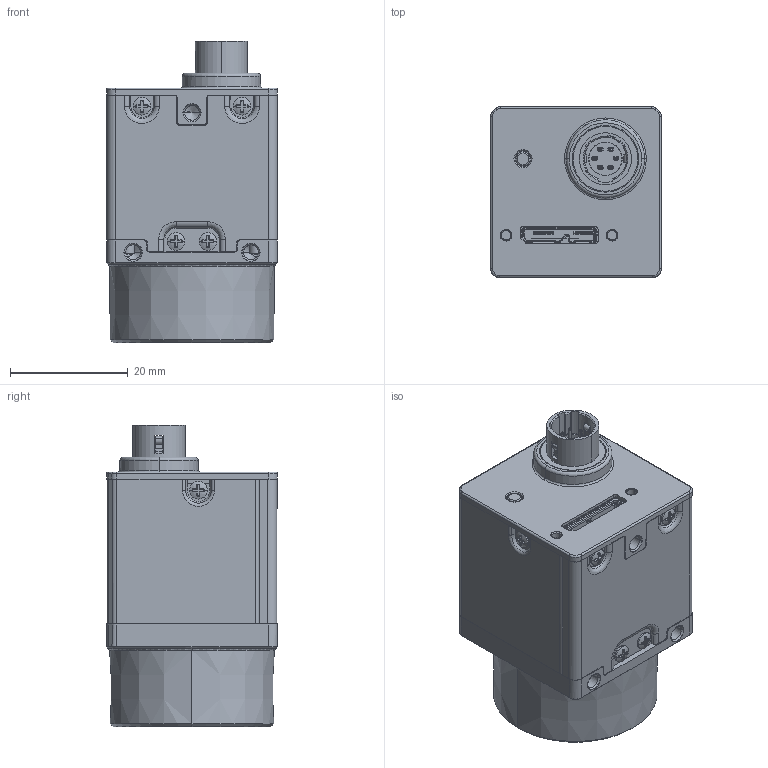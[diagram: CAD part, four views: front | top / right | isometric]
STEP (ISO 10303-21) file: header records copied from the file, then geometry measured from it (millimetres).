
FILE_DESCRIPTION((''),'2;1');
FILE_NAME('MV-CU050-60UM','2022-12-05T14:34:20',('zhangfeixiang8'),(''),'CREO PARAMETRIC BY PTC INC, 2020044','CREO PARAMETRIC BY PTC INC, 2020044','');
FILE_SCHEMA(('CONFIG_CONTROL_DESIGN','SHAPE_APPEARANCE_LAYERS_GROUPS'));
Products named in the file (1): MV-CU050-60UM
Bounding box: 29 x 29 x 51.21 mm (x, y, z)
Volume: 25244.9 mm3; surface area: 17429.3 mm2
Topology: 5 solids, 54 shells, 3118 faces, 8493 edges, 5430 vertices
Faces by surface type: plane 1321, cylinder 794, bspline 428, cone 312, torus 221, sphere 29, extrusion 13
Entity records: 148706 total; most frequent: CARTESIAN_POINT 55323, ORIENTED_EDGE 16730, DIRECTION 14147, EDGE_CURVE 8450, VERTEX_POINT 5430, AXIS2_PLACEMENT_3D 4997, VECTOR 4153, LINE 4140
